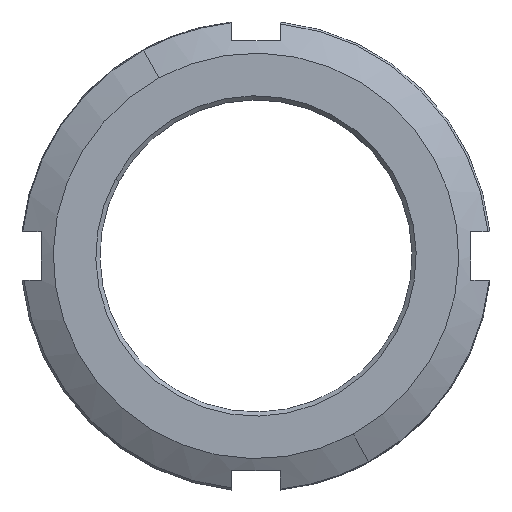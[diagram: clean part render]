
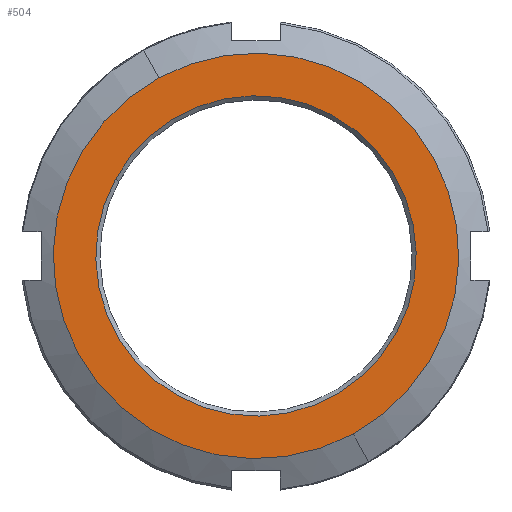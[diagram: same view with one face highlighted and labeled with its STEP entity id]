
A CAD part, top view. The second image highlights one B-rep face of the part: STEP entity #504.
In plain terms, the highlighted planar face has unit normal (0, 0, 1).
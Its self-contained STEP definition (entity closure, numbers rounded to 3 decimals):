
#438=CARTESIAN_POINT('Vertex',(-17.332,9.469,9.)) ;
#441=CARTESIAN_POINT('Axis2P3D Location',(0.,0.,9.)) ;
#445=CARTESIAN_POINT('Vertex',(17.332,-9.469,9.)) ;
#465=CARTESIAN_POINT('Axis2P3D Location',(0.,0.,9.)) ;
#477=CARTESIAN_POINT('Axis2P3D Location',(0.,0.,9.)) ;
#482=CARTESIAN_POINT('Axis2P3D Location',(0.,0.,9.)) ;
#486=CARTESIAN_POINT('Vertex',(11.986,-21.94,9.)) ;
#488=CARTESIAN_POINT('Vertex',(-11.986,21.94,9.)) ;
#491=CARTESIAN_POINT('Axis2P3D Location',(0.,0.,9.)) ;
#442=DIRECTION('Axis2P3D Direction',(0.,0.,1.)) ;
#466=DIRECTION('Axis2P3D Direction',(0.,0.,1.)) ;
#478=DIRECTION('Axis2P3D Direction',(0.,0.,1.)) ;
#479=DIRECTION('Axis2P3D XDirection',(1.,0.,0.)) ;
#483=DIRECTION('Axis2P3D Direction',(0.,0.,1.)) ;
#492=DIRECTION('Axis2P3D Direction',(0.,0.,1.)) ;
#443=AXIS2_PLACEMENT_3D('Circle Axis2P3D',#441,#442,$) ;
#467=AXIS2_PLACEMENT_3D('Circle Axis2P3D',#465,#466,$) ;
#480=AXIS2_PLACEMENT_3D('Plane Axis2P3D',#477,#478,#479) ;
#484=AXIS2_PLACEMENT_3D('Circle Axis2P3D',#482,#483,$) ;
#493=AXIS2_PLACEMENT_3D('Circle Axis2P3D',#491,#492,$) ;
#497=ORIENTED_EDGE('',*,*,#490,.T.) ;
#498=ORIENTED_EDGE('',*,*,#495,.T.) ;
#501=ORIENTED_EDGE('',*,*,#469,.F.) ;
#502=ORIENTED_EDGE('',*,*,#447,.F.) ;
#503=FACE_BOUND('',#500,.T.) ;
#504=ADVANCED_FACE('PartBody',(#499,#503),#481,.T.) ;
#444=CIRCLE('generated circle',#443,19.75) ;
#468=CIRCLE('generated circle',#467,19.75) ;
#485=CIRCLE('generated circle',#484,25.) ;
#494=CIRCLE('generated circle',#493,25.) ;
#447=EDGE_CURVE('',#439,#446,#444,.T.) ;
#469=EDGE_CURVE('',#446,#439,#468,.T.) ;
#490=EDGE_CURVE('',#487,#489,#485,.T.) ;
#495=EDGE_CURVE('',#489,#487,#494,.T.) ;
#496=EDGE_LOOP('',(#497,#498)) ;
#500=EDGE_LOOP('',(#501,#502)) ;
#499=FACE_OUTER_BOUND('',#496,.T.) ;
#481=PLANE('Plane',#480) ;
#439=VERTEX_POINT('',#438) ;
#446=VERTEX_POINT('',#445) ;
#487=VERTEX_POINT('',#486) ;
#489=VERTEX_POINT('',#488) ;
